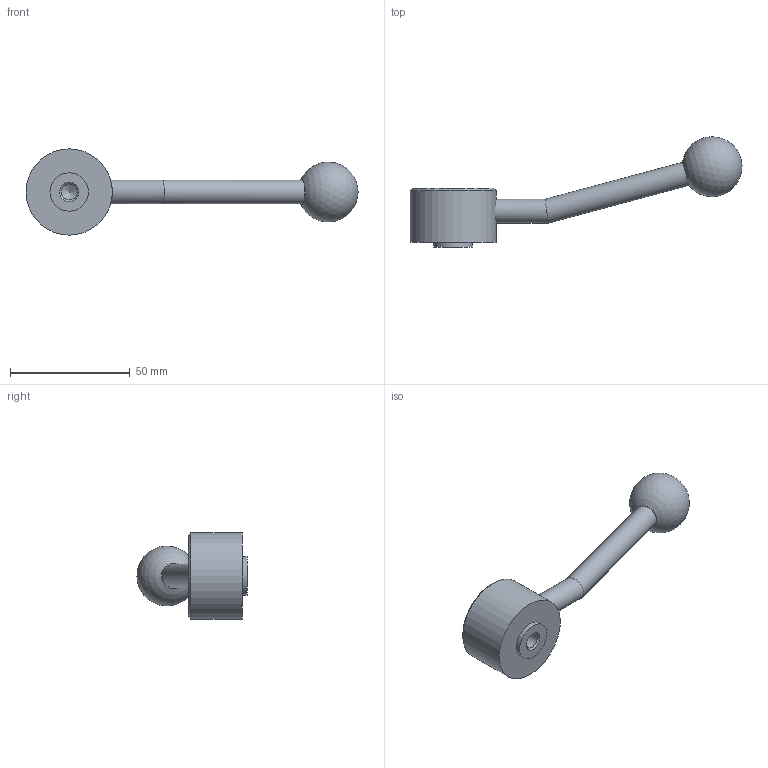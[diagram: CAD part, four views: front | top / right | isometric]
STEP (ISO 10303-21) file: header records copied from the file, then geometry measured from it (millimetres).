
FILE_DESCRIPTION( ( 'STEP AP203' ), '1' );
FILE_NAME( 'C:/Temp/Ganter_Step_05_03_2020/data/2_1/gn_125/gn_125_mb/gn_125_mb_e/Flat Adjustable Lever GN 125-36-M8-E.stp', '2020-03-05T11:00:41', ( 'License CC BY-ND 4.0' ), ( 'CADENAS' ), ' ', 'PARTsolutions', ' ' );
FILE_SCHEMA( ( 'CONFIG_CONTROL_DESIGN' ) );
Length unit declared in the file: millimetre
Products named in the file (1): _Flat Adjustable Lever GN 125-36-M8-E
Bounding box: 138.41 x 45.96 x 36 mm (x, y, z)
Volume: 37108.7 mm3; surface area: 9282.1 mm2
Topology: 1 solids, 1 shells, 15 faces, 27 edges, 17 vertices
Faces by surface type: cylinder 6, plane 5, cone 3, sphere 1
Full cylindrical faces by diameter (mm): 6.647 x1, 10 x2, 16 x1, 26 x1, 36 x1
Entity records: 416 total; most frequent: CARTESIAN_POINT 119, DIRECTION 58, AXIS2_PLACEMENT_3D 29, EDGE_LOOP 28, ORIENTED_EDGE 28, FACE_OUTER_BOUND 21, VERTEX_POINT 16, ADVANCED_FACE 15
